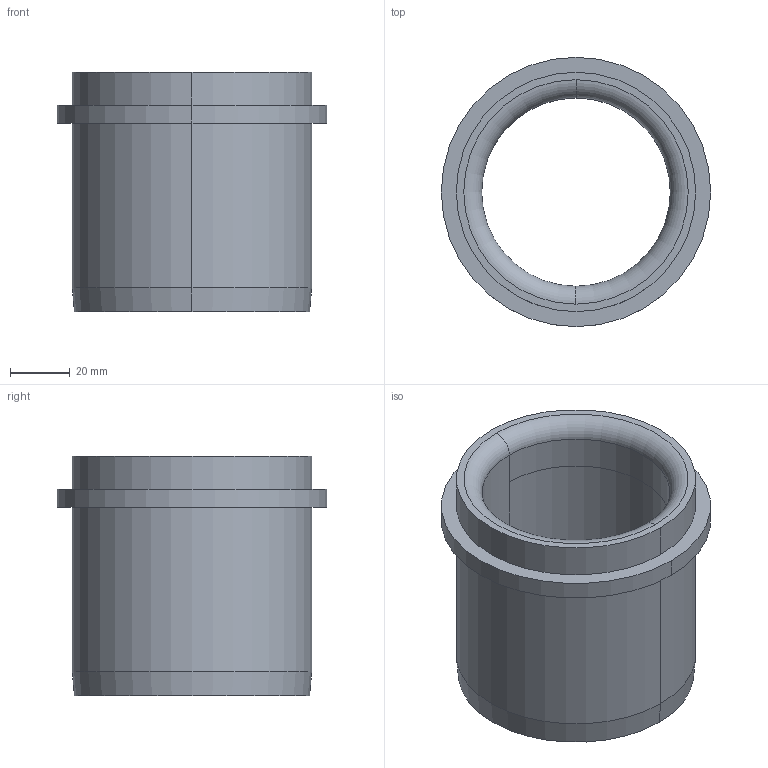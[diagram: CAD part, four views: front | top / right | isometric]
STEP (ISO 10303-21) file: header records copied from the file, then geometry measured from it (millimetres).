
FILE_DESCRIPTION(('CATIA V5 STEP'),'2;1');
FILE_NAME('\\GSBFILE\data\URETIM\3D DATALAR\Step Dosyaları\Kılavuz Elemanları\G211-01-063-080.stp','2020-07-07T04:14:51+00:00',('none'),('none'),'CATIA Version 5-6 Release 2019 SP3','CATIA V5 STEP AP203 v1','none');
FILE_SCHEMA(('CONFIG_CONTROL_DESIGN'));
Length unit declared in the file: millimetre
Products named in the file (1): Part1
Bounding box: 90 x 90 x 80 mm (x, y, z)
Volume: 158289.3 mm3; surface area: 41771.1 mm2
Topology: 1 solids, 1 shells, 20 faces, 42 edges, 26 vertices
Faces by surface type: cylinder 10, torus 4, plane 4, cone 2
Entity records: 533 total; most frequent: ORIENTED_EDGE 84, CARTESIAN_POINT 83, DIRECTION 70, AXIS2_PLACEMENT_3D 43, EDGE_CURVE 42, CIRCLE 28, VERTEX_POINT 26, EDGE_LOOP 24
